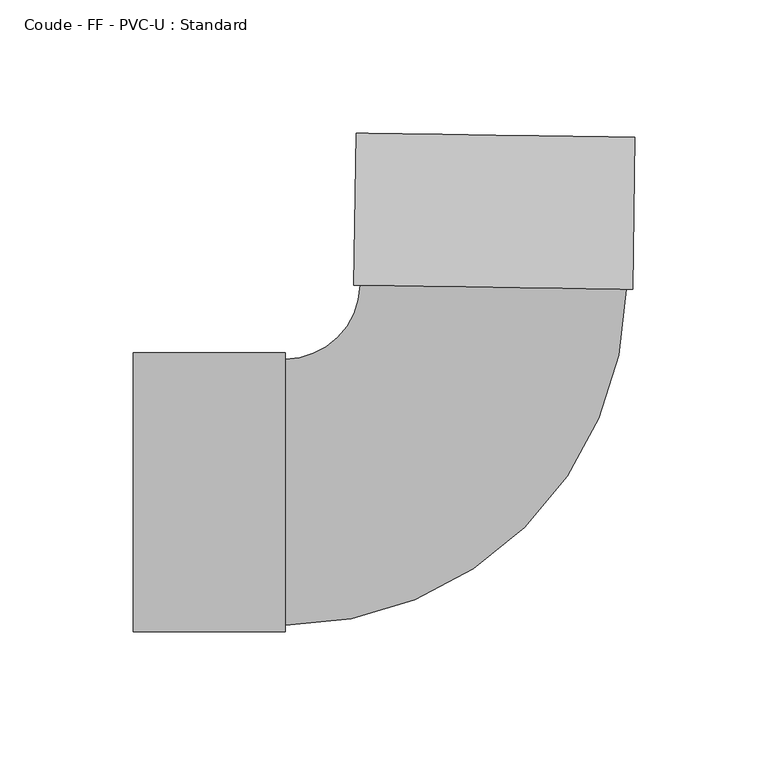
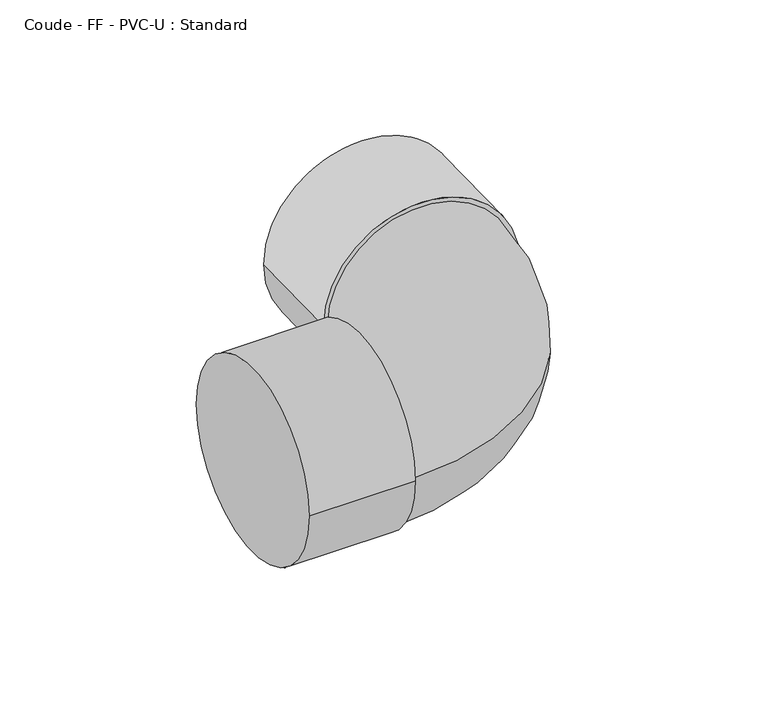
"""IFC4 building model written with IfcOpenShell, lengths in millimetres: pipe fitting geometry, Coude - FF - PVC-U : Standard."""

from ifc_helpers import new_model, si_unit, point, frame, origin, place, context, project, spatial, circle_curve, ellipse_curve, trimmed, source, transform, mapped, element, save
from ifc_brep_helpers import plane_surface, cylinder_surface, revolved_surface, advanced_brep


def coude_ff_pvc_u_standard_6033082a(model_context):
    return source(origin(), model_context, "Body", "AdvancedBrep", [
        advanced_brep(
        [(-134.0, -52.3, 0.0), (-134.0, 52.3, 0.0), (-77.0, -52.3, 0.0), (-77.0, 52.3, 0.0), (-77.0, -50.0, 0.0), (-77.0, 50.0, 0.0), (-48.8395059, 77.7412546, 0.0), (51.149246, 76.2414233, 0.0), (53.4489873, 76.2069272, 0.0), (-51.1392472, 77.7757507, 0.0), (54.3038912, 133.2005158, 0.0), (-50.2843433, 134.7693393, 0.0)],
        [
            (0, 1, circle_curve(frame((-134.0, 0.0, 0.0), z_axis=(-1.0, 0.0, 0.0), x_axis=(0.0, 1.0, 0.0)), 52.3)),
            (1, 0, circle_curve(frame((-134.0, 0.0, 0.0), z_axis=(-1.0, 0.0, 0.0), x_axis=(0.0, 1.0, 0.0)), 52.3)),
            (2, 3, circle_curve(frame((-77.0, 0.0, 0.0), z_axis=(1.0, 0.0, 0.0), x_axis=(0.0, 1.0, 0.0)), 52.3)),
            (3, 2, circle_curve(frame((-77.0, 0.0, 0.0), z_axis=(1.0, 0.0, 0.0), x_axis=(0.0, 1.0, 0.0)), 52.3)),
            (4, 5, circle_curve(frame((-77.0, 0.0, 0.0), z_axis=(-1.0, 0.0, 0.0), x_axis=(0.0, 1.0, 0.0)), 50.0)),
            (5, 4, circle_curve(frame((-77.0, 0.0, 0.0), z_axis=(-1.0, 0.0, 0.0), x_axis=(0.0, 1.0, 0.0)), 50.0)),
            (0, 2),
            (3, 1),
            (6, 5, circle_curve(frame((-77.0, 78.163662, 0.0), z_axis=(0.0, 0.0, -1.0), x_axis=(0.0, -1.0, 0.0)), 28.163662)),
            (4, 7, circle_curve(frame((-77.0, 78.163662, 0.0), z_axis=(0.0, 0.0, 1.0), x_axis=(0.0, -1.0, 0.0)), 128.163662)),
            (7, 6, circle_curve(frame((1.1548701, 76.991339, 0.0), z_axis=(-0.014998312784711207, -0.9998875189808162, 0.0), x_axis=(-0.9998875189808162, 0.014998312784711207, 0.0)), 50.0)),
            (6, 7, circle_curve(frame((1.1548701, 76.991339, 0.0), z_axis=(-0.014998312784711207, -0.9998875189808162, 0.0), x_axis=(-0.9998875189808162, 0.014998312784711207, 0.0)), 50.0)),
            (8, 9, circle_curve(frame((1.1548701, 76.991339, 0.0), z_axis=(-0.014998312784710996, -0.9998875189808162, 0.0), x_axis=(-0.9998875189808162, 0.014998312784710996, 0.0)), 52.3)),
            (9, 8, circle_curve(frame((1.1548701, 76.991339, 0.0), z_axis=(-0.014998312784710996, -0.9998875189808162, 0.0), x_axis=(-0.9998875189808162, 0.014998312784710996, 0.0)), 52.3)),
            (10, 11, circle_curve(frame((2.0097739, 133.9849275, 0.0), z_axis=(0.014998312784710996, 0.9998875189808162, 0.0), x_axis=(-0.9998875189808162, 0.014998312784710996, 0.0)), 52.3)),
            (11, 10, circle_curve(frame((2.0097739, 133.9849275, 0.0), z_axis=(0.014998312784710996, 0.9998875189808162, 0.0), x_axis=(-0.9998875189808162, 0.014998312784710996, 0.0)), 52.3)),
            (8, 10),
            (11, 9),
        ],
        [
            plane_surface(frame((-134.0, 0.0, 0.0), z_axis=(-1.0, 0.0, 0.0), x_axis=(0.0, 0.0, 1.0))),
            plane_surface(frame((-77.0, 0.0, 0.0), z_axis=(1.0, 0.0, 0.0), x_axis=(0.0, 0.0, 1.0))),
            cylinder_surface(frame((-134.0, 0.0, 0.0), z_axis=(-1.0, 0.0, 0.0), x_axis=(0.0, 1.0, 0.0)), 52.3),
            revolved_surface(trimmed(ellipse_curve(frame((-77.0, 0.0, 0.0), z_axis=(-1.0, 0.0, 0.0), x_axis=(0.0, 1.0, 0.0)), 50.0, 50.0), [point((-77.0, -50.0, 0.0))], [point((-77.0, 50.0, 0.0))], True, "CARTESIAN"), (-77.0, 78.163662, 0.0), (0.0, 0.0, 1.0)),
            revolved_surface(trimmed(ellipse_curve(frame((-77.0, 0.0, 0.0), z_axis=(-1.0, 0.0, 0.0), x_axis=(0.0, 1.0, 0.0)), 50.0, 50.0), [point((-77.0, 50.0, 0.0))], [point((-77.0, -50.0, 0.0))], True, "CARTESIAN"), (-77.0, 78.163662, 0.0), (0.0, 0.0, 1.0)),
            plane_surface(frame((1.1548701, 76.991339, 0.0), z_axis=(-0.014998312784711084, -0.9998875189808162, 0.0), x_axis=(0.0, 0.0, 1.0))),
            plane_surface(frame((2.0097739, 133.9849275, 0.0), z_axis=(0.014998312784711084, 0.9998875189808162, 0.0), x_axis=(0.0, 0.0, 1.0))),
            cylinder_surface(frame((1.1548701, 76.991339, 0.0), z_axis=(-0.014998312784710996, -0.9998875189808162, 0.0), x_axis=(-0.9998875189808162, 0.014998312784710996, 0.0)), 52.3),
        ],
        [
            (0, [[1, 2]]),
            (1, [[3, 4], [5, 6]]),
            (2, [[-1, 7, -4, 8]]),
            (2, [[-2, -8, -3, -7]]),
            (3, [[9, -5, 10, 11]]),
            (4, [[-9, 12, -10, -6]]),
            (5, [[13, 14], [-11, -12]]),
            (6, [[15, 16]]),
            (7, [[-13, 17, -16, 18]]),
            (7, [[-14, -18, -15, -17]]),
        ],
    ),
    ])


if __name__ == "__main__":
    model = new_model("IFC4")
    model_context = context("Model", 3, world=origin())
    ifc_project = project(units=[si_unit("LENGTHUNIT", "METRE", prefix="MILLI")], contexts=[model_context])
    site = spatial("IfcSite", under=ifc_project)
    building = spatial("IfcBuilding", under=site)
    placement = place(None, origin())
    coude_ff_pvc_u_standard_shape = coude_ff_pvc_u_standard_6033082a(model_context)
    element("IfcPipeFitting", 1, ObjectType="Coude - FF - PVC-U : Standard", at=placement, inside=building, context=model_context, shape_type="MappedRepresentation", body=[
        mapped(coude_ff_pvc_u_standard_shape, transform((0.0, 0.0, 0.0), x_axis=(1.0, 0.0, 0.0), y_axis=(0.0, 1.0, 0.0), z_axis=(0.0, 0.0, 1.0))),
    ])
    save(model, "model.ifc")
